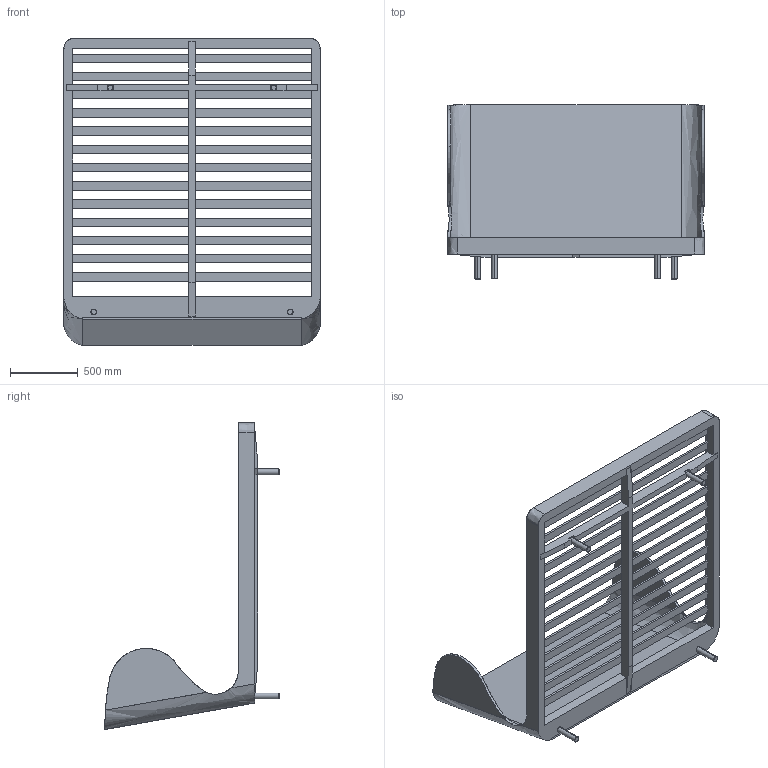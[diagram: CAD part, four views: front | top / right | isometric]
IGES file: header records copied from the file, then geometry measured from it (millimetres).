
Start section: SolidWorks IGES file using analytic representation for surfaces
Global section: file name: C:\Users\David.BDLE\Desktop\265UK suite bed_version i_2016-09-19\3D IGS.IGS; native system: SolidWorks 2016; preprocessor: SolidWorks 2016; author: David; date: 210615.180144; units: millimetre
Bounding box: 1885 x 1284.15 x 2258.71 mm (x, y, z)
Surface area: 12458977.7 mm2 (no closed solid volume)
Topology: 0 solids, 0 shells, 235 faces, 2658 edges, 2658 vertices
Faces by surface type: bspline 187, revolution 48
